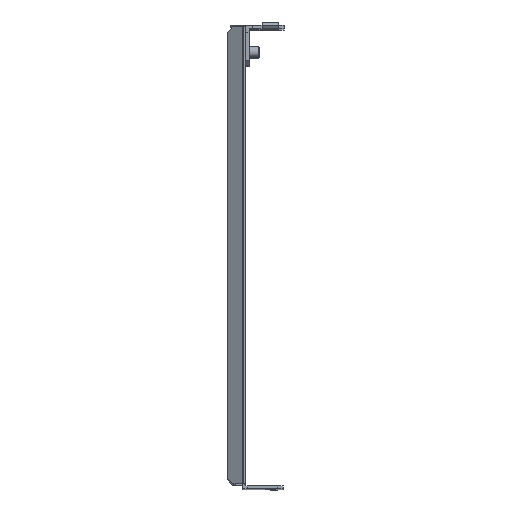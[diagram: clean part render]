
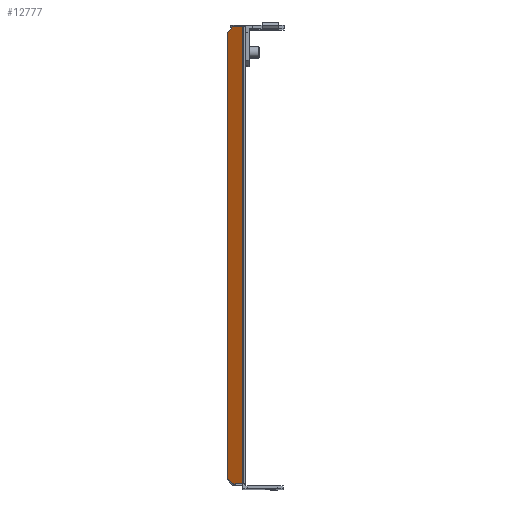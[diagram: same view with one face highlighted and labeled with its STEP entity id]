
A CAD part, top view. The second image highlights one B-rep face of the part: STEP entity #12777.
In plain terms, the highlighted planar face has unit normal (-0.5, 0, 0.866).
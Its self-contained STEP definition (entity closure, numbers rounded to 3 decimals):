
#103 = DIRECTION ( 'NONE',  ( 0.866, 0., 0.5 ) ) ;
#148 = LINE ( 'NONE', #2493, #9588 ) ;
#498 = CARTESIAN_POINT ( 'NONE',  ( -2.768, 248., 223.648 ) ) ;
#665 = VECTOR ( 'NONE', #3373, 1000. ) ;
#731 = ORIENTED_EDGE ( 'NONE', *, *, #4301, .F. ) ;
#922 = EDGE_CURVE ( 'NONE', #14069, #4644, #11513, .T. ) ;
#1024 = EDGE_CURVE ( 'NONE', #3082, #1659, #6063, .T. ) ;
#1321 = PLANE ( 'NONE',  #1772 ) ;
#1543 = CARTESIAN_POINT ( 'NONE',  ( -8.428, 0., 220.38 ) ) ;
#1659 = VERTEX_POINT ( 'NONE', #10052 ) ;
#1742 = VECTOR ( 'NONE', #8471, 1000. ) ;
#1772 = AXIS2_PLACEMENT_3D ( 'NONE', #12800, #4875, #5785 ) ;
#2102 = CARTESIAN_POINT ( 'NONE',  ( -8.428, 248., 220.38 ) ) ;
#2493 = CARTESIAN_POINT ( 'NONE',  ( -96.784, 0., 169.368 ) ) ;
#3082 = VERTEX_POINT ( 'NONE', #4247 ) ;
#3163 = CARTESIAN_POINT ( 'NONE',  ( -5.25, 0., 222.215 ) ) ;
#3373 = DIRECTION ( 'NONE',  ( -0.612, -0.707, -0.354 ) ) ;
#3894 = VECTOR ( 'NONE', #13185, 1000. ) ;
#4204 = ORIENTED_EDGE ( 'NONE', *, *, #10589, .T. ) ;
#4247 = CARTESIAN_POINT ( 'NONE',  ( -11.026, 245., 218.88 ) ) ;
#4301 = EDGE_CURVE ( 'NONE', #8040, #12100, #12820, .T. ) ;
#4529 = ORIENTED_EDGE ( 'NONE', *, *, #1024, .T. ) ;
#4573 = CARTESIAN_POINT ( 'NONE',  ( -5.25, 0., 222.215 ) ) ;
#4644 = VERTEX_POINT ( 'NONE', #7068 ) ;
#4766 = DIRECTION ( 'NONE',  ( 0.866, 0., 0.5 ) ) ;
#4875 = DIRECTION ( 'NONE',  ( 0.5, 0., -0.866 ) ) ;
#5051 = ORIENTED_EDGE ( 'NONE', *, *, #11554, .T. ) ;
#5105 = ORIENTED_EDGE ( 'NONE', *, *, #11292, .T. ) ;
#5112 = CARTESIAN_POINT ( 'NONE',  ( -2.768, 0., 223.648 ) ) ;
#5192 = CARTESIAN_POINT ( 'NONE',  ( -8.428, 0., 220.38 ) ) ;
#5785 = DIRECTION ( 'NONE',  ( 0., -1., 0. ) ) ;
#5870 = ORIENTED_EDGE ( 'NONE', *, *, #922, .T. ) ;
#6063 = LINE ( 'NONE', #12944, #1742 ) ;
#6344 = VECTOR ( 'NONE', #103, 1000. ) ;
#6604 = CARTESIAN_POINT ( 'NONE',  ( -5.25, 248., 222.215 ) ) ;
#6640 = ORIENTED_EDGE ( 'NONE', *, *, #12096, .T. ) ;
#6873 = CARTESIAN_POINT ( 'NONE',  ( -96.784, 248., 169.368 ) ) ;
#7068 = CARTESIAN_POINT ( 'NONE',  ( -2.768, 0., 223.648 ) ) ;
#7305 = DIRECTION ( 'NONE',  ( 0., 1., 0. ) ) ;
#8040 = VERTEX_POINT ( 'NONE', #6604 ) ;
#8125 = FACE_OUTER_BOUND ( 'NONE', #14409, .T. ) ;
#8471 = DIRECTION ( 'NONE',  ( 0., -1., 0. ) ) ;
#8798 = ORIENTED_EDGE ( 'NONE', *, *, #9208, .T. ) ;
#9126 = VECTOR ( 'NONE', #12365, 1000. ) ;
#9208 = EDGE_CURVE ( 'NONE', #1659, #9590, #14237, .T. ) ;
#9588 = VECTOR ( 'NONE', #4766, 1000. ) ;
#9590 = VERTEX_POINT ( 'NONE', #1543 ) ;
#9937 = CARTESIAN_POINT ( 'NONE',  ( -96.784, 248., 169.368 ) ) ;
#10052 = CARTESIAN_POINT ( 'NONE',  ( -11.026, 3., 218.88 ) ) ;
#10543 = DIRECTION ( 'NONE',  ( 0.866, 0., 0.5 ) ) ;
#10589 = EDGE_CURVE ( 'NONE', #12513, #3082, #13938, .T. ) ;
#11292 = EDGE_CURVE ( 'NONE', #8040, #12513, #12444, .T. ) ;
#11385 = VECTOR ( 'NONE', #7305, 1000. ) ;
#11513 = LINE ( 'NONE', #4573, #6344 ) ;
#11554 = EDGE_CURVE ( 'NONE', #9590, #14069, #148, .T. ) ;
#12075 = VECTOR ( 'NONE', #10543, 1000. ) ;
#12096 = EDGE_CURVE ( 'NONE', #4644, #12100, #14099, .T. ) ;
#12100 = VERTEX_POINT ( 'NONE', #498 ) ;
#12365 = DIRECTION ( 'NONE',  ( -0.866, 0., -0.5 ) ) ;
#12444 = LINE ( 'NONE', #9937, #9126 ) ;
#12513 = VERTEX_POINT ( 'NONE', #2102 ) ;
#12777 = ADVANCED_FACE ( 'NONE', ( #8125 ), #1321, .F. ) ;
#12800 = CARTESIAN_POINT ( 'NONE',  ( -96.784, 0., 169.368 ) ) ;
#12820 = LINE ( 'NONE', #6873, #12075 ) ;
#12944 = CARTESIAN_POINT ( 'NONE',  ( -11.026, 0., 218.88 ) ) ;
#13185 = DIRECTION ( 'NONE',  ( 0.612, -0.707, 0.354 ) ) ;
#13938 = LINE ( 'NONE', #14002, #665 ) ;
#14002 = CARTESIAN_POINT ( 'NONE',  ( -11.026, 245., 218.88 ) ) ;
#14069 = VERTEX_POINT ( 'NONE', #3163 ) ;
#14099 = LINE ( 'NONE', #5112, #11385 ) ;
#14237 = LINE ( 'NONE', #5192, #3894 ) ;
#14409 = EDGE_LOOP ( 'NONE', ( #5870, #6640, #731, #5105, #4204, #4529, #8798, #5051 ) ) ;
